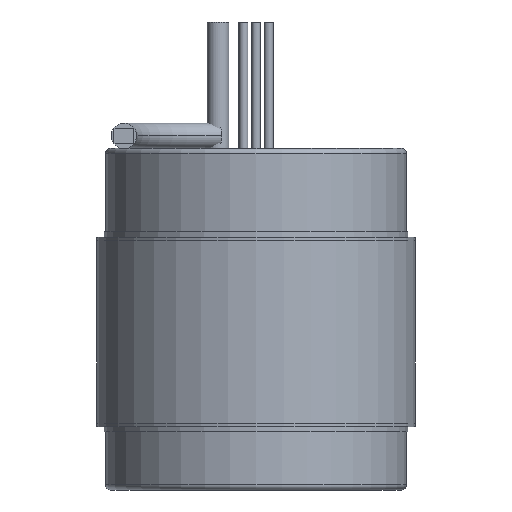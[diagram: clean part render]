
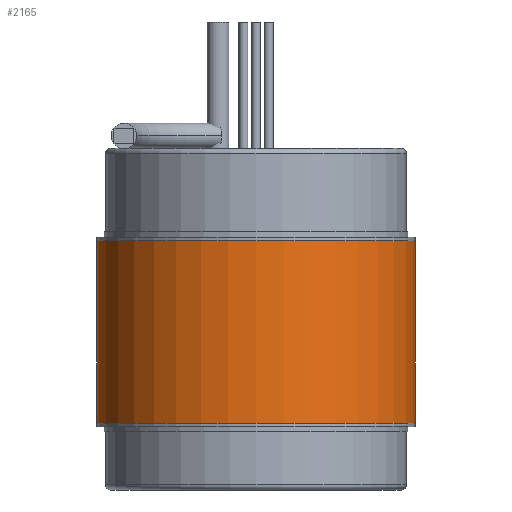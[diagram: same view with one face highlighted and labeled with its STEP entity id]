
A CAD part, front view. The second image highlights one B-rep face of the part: STEP entity #2165.
In plain terms, the highlighted cylindrical face has radius 16.002 mm (diameter 32.004 mm), a partial arc.
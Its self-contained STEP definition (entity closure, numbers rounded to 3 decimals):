
#19 = ORIENTED_EDGE ( 'NONE', *, *, #1779, .T. ) ;
#60 = DIRECTION ( 'NONE',  ( 0., 0., 1. ) ) ;
#68 = DIRECTION ( 'NONE',  ( 1., 0., 0. ) ) ;
#116 = ORIENTED_EDGE ( 'NONE', *, *, #2842, .T. ) ;
#163 = EDGE_CURVE ( 'NONE', #208, #1730, #449, .T. ) ;
#189 = AXIS2_PLACEMENT_3D ( 'NONE', #2547, #60, #68 ) ;
#208 = VERTEX_POINT ( 'NONE', #701 ) ;
#374 = CARTESIAN_POINT ( 'NONE',  ( -16.002, 0., 9.169 ) ) ;
#404 = VERTEX_POINT ( 'NONE', #2394 ) ;
#449 = LINE ( 'NONE', #1384, #1509 ) ;
#514 = DIRECTION ( 'NONE',  ( 0., 0., 1. ) ) ;
#576 = CIRCLE ( 'NONE', #645, 16.002 ) ;
#645 = AXIS2_PLACEMENT_3D ( 'NONE', #1201, #514, #2558 ) ;
#701 = CARTESIAN_POINT ( 'NONE',  ( -16.002, 0., -9.169 ) ) ;
#771 = DIRECTION ( 'NONE',  ( 1., 0., 0. ) ) ;
#784 = LINE ( 'NONE', #1789, #2447 ) ;
#793 = FACE_OUTER_BOUND ( 'NONE', #2432, .T. ) ;
#908 = ORIENTED_EDGE ( 'NONE', *, *, #163, .F. ) ;
#920 = DIRECTION ( 'NONE',  ( 0., 0., 1. ) ) ;
#1006 = CYLINDRICAL_SURFACE ( 'NONE', #189, 16.002 ) ;
#1201 = CARTESIAN_POINT ( 'NONE',  ( 0., 0., 9.169 ) ) ;
#1384 = CARTESIAN_POINT ( 'NONE',  ( -16.002, 0., -10.033 ) ) ;
#1486 = ORIENTED_EDGE ( 'NONE', *, *, #2162, .F. ) ;
#1506 = AXIS2_PLACEMENT_3D ( 'NONE', #2561, #2115, #771 ) ;
#1509 = VECTOR ( 'NONE', #920, 1000. ) ;
#1551 = VERTEX_POINT ( 'NONE', #2600 ) ;
#1730 = VERTEX_POINT ( 'NONE', #374 ) ;
#1779 = EDGE_CURVE ( 'NONE', #1551, #404, #784, .T. ) ;
#1789 = CARTESIAN_POINT ( 'NONE',  ( 16.002, 0., -10.033 ) ) ;
#2115 = DIRECTION ( 'NONE',  ( 0., 0., 1. ) ) ;
#2162 = EDGE_CURVE ( 'NONE', #1730, #404, #576, .T. ) ;
#2165 = ADVANCED_FACE ( 'NONE', ( #793 ), #1006, .T. ) ;
#2376 = CIRCLE ( 'NONE', #1506, 16.002 ) ;
#2394 = CARTESIAN_POINT ( 'NONE',  ( 16.002, 0., 9.169 ) ) ;
#2432 = EDGE_LOOP ( 'NONE', ( #908, #116, #19, #1486 ) ) ;
#2447 = VECTOR ( 'NONE', #2955, 1000. ) ;
#2547 = CARTESIAN_POINT ( 'NONE',  ( 0., 0., -10.033 ) ) ;
#2558 = DIRECTION ( 'NONE',  ( 1., 0., 0. ) ) ;
#2561 = CARTESIAN_POINT ( 'NONE',  ( 0., 0., -9.169 ) ) ;
#2600 = CARTESIAN_POINT ( 'NONE',  ( 16.002, 0., -9.169 ) ) ;
#2842 = EDGE_CURVE ( 'NONE', #208, #1551, #2376, .T. ) ;
#2955 = DIRECTION ( 'NONE',  ( 0., 0., 1. ) ) ;
